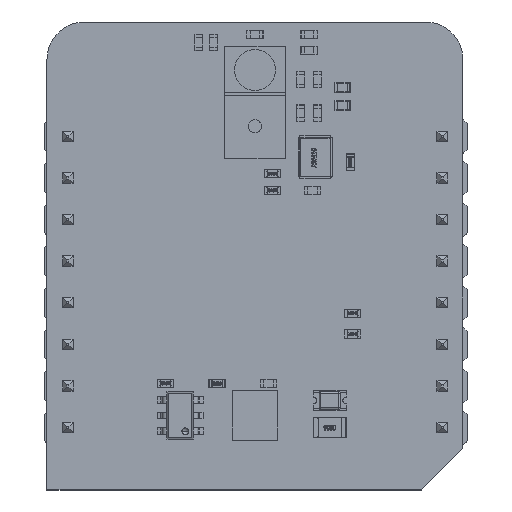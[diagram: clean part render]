
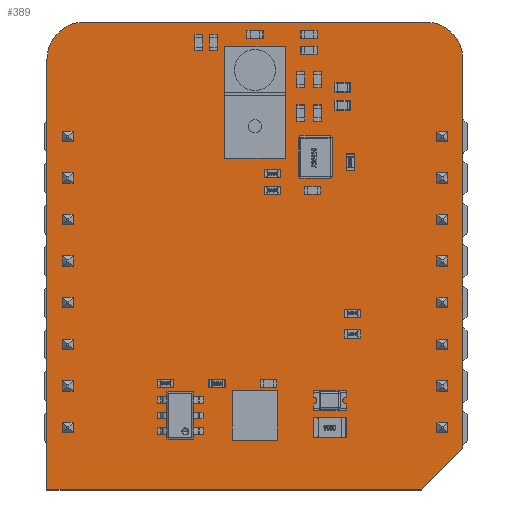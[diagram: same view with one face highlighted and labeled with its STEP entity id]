
A CAD part, top view. The second image highlights one B-rep face of the part: STEP entity #389.
In plain terms, the highlighted planar face has unit normal (0, 0, 1).
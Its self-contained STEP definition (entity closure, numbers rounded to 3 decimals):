
#160 = VERTEX_POINT('',#161);
#161 = CARTESIAN_POINT('',(-1.27,-3.81,1.59));
#167 = EDGE_CURVE('',#160,#168,#170,.T.);
#168 = VERTEX_POINT('',#169);
#169 = CARTESIAN_POINT('',(-1.27,22.479,1.59));
#170 = LINE('',#171,#172);
#171 = CARTESIAN_POINT('',(-1.27,-3.81,1.59));
#172 = VECTOR('',#173,1.);
#173 = DIRECTION('',(0.,1.,0.));
#198 = EDGE_CURVE('',#168,#199,#201,.T.);
#199 = VERTEX_POINT('',#200);
#200 = CARTESIAN_POINT('',(1.016,24.765,1.59));
#201 = CIRCLE('',#202,2.288);
#202 = AXIS2_PLACEMENT_3D('',#203,#204,#205);
#203 = CARTESIAN_POINT('',(1.018,22.477,1.59));
#204 = DIRECTION('',(0.,0.,-1.));
#205 = DIRECTION('',(-1.,0.001,0.));
#231 = EDGE_CURVE('',#199,#232,#234,.T.);
#232 = VERTEX_POINT('',#233);
#233 = CARTESIAN_POINT('',(21.844,24.765,1.59));
#234 = LINE('',#235,#236);
#235 = CARTESIAN_POINT('',(1.016,24.765,1.59));
#236 = VECTOR('',#237,1.);
#237 = DIRECTION('',(1.,0.,0.));
#262 = EDGE_CURVE('',#232,#263,#265,.T.);
#263 = VERTEX_POINT('',#264);
#264 = CARTESIAN_POINT('',(24.13,22.479,1.59));
#265 = CIRCLE('',#266,2.288);
#266 = AXIS2_PLACEMENT_3D('',#267,#268,#269);
#267 = CARTESIAN_POINT('',(21.842,22.477,1.59));
#268 = DIRECTION('',(0.,0.,-1.));
#269 = DIRECTION('',(0.001,1.,0.));
#295 = EDGE_CURVE('',#263,#296,#298,.T.);
#296 = VERTEX_POINT('',#297);
#297 = CARTESIAN_POINT('',(24.13,-1.27,1.59));
#298 = LINE('',#299,#300);
#299 = CARTESIAN_POINT('',(24.13,22.479,1.59));
#300 = VECTOR('',#301,1.);
#301 = DIRECTION('',(0.,-1.,0.));
#326 = EDGE_CURVE('',#296,#327,#329,.T.);
#327 = VERTEX_POINT('',#328);
#328 = CARTESIAN_POINT('',(21.59,-3.81,1.59));
#329 = LINE('',#330,#331);
#330 = CARTESIAN_POINT('',(24.13,-1.27,1.59));
#331 = VECTOR('',#332,1.);
#332 = DIRECTION('',(-0.707,-0.707,0.));
#357 = EDGE_CURVE('',#327,#160,#358,.T.);
#358 = LINE('',#359,#360);
#359 = CARTESIAN_POINT('',(21.59,-3.81,1.59));
#360 = VECTOR('',#361,1.);
#361 = DIRECTION('',(-1.,0.,0.));
#389 = ADVANCED_FACE('',(#390),#399,.F.);
#390 = FACE_BOUND('',#391,.F.);
#391 = EDGE_LOOP('',(#392,#393,#394,#395,#396,#397,#398));
#392 = ORIENTED_EDGE('',*,*,#167,.T.);
#393 = ORIENTED_EDGE('',*,*,#198,.T.);
#394 = ORIENTED_EDGE('',*,*,#231,.T.);
#395 = ORIENTED_EDGE('',*,*,#262,.T.);
#396 = ORIENTED_EDGE('',*,*,#295,.T.);
#397 = ORIENTED_EDGE('',*,*,#326,.T.);
#398 = ORIENTED_EDGE('',*,*,#357,.T.);
#399 = PLANE('',#400);
#400 = AXIS2_PLACEMENT_3D('',#401,#402,#403);
#401 = CARTESIAN_POINT('',(11.236,10.405,1.59));
#402 = DIRECTION('',(-0.,-0.,-1.));
#403 = DIRECTION('',(-1.,0.,0.));
